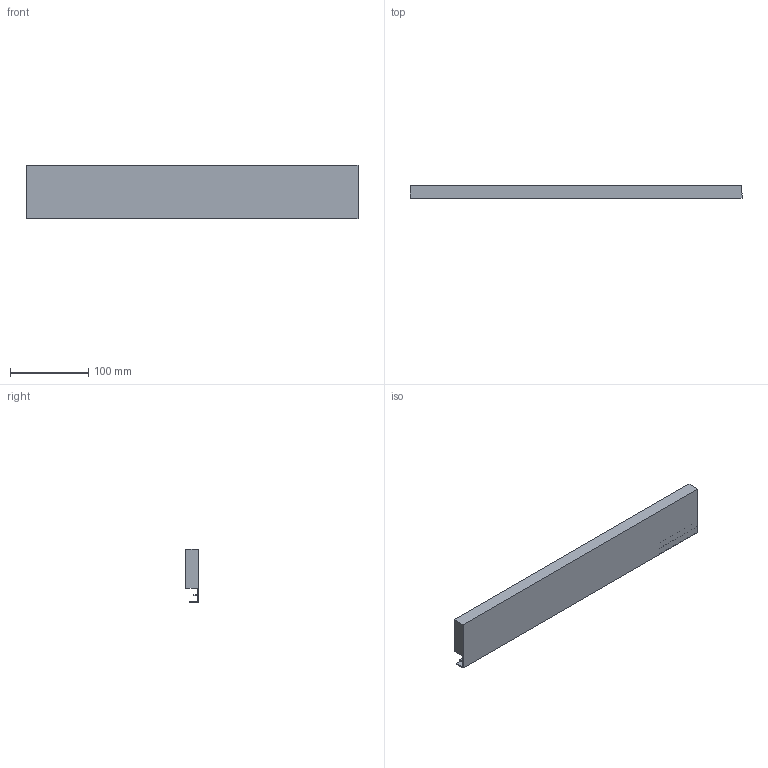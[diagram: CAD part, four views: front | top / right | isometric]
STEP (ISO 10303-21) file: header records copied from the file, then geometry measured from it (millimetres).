
FILE_DESCRIPTION (( 'STEP AP214' ), '1' );
FILE_NAME ('Innenschub-Blendenprofil_KAB550_S18.step', '2010-09-23T12:26:59', ( 'grass' ), ( '' ), 'SwSTEP 2.0', 'SolidWorks 2010', '' );
FILE_SCHEMA (( 'AUTOMOTIVE_DESIGN' ));
Length unit declared in the file: millimetre
Products named in the file (1): Innenschub-Blendenprofil_KAB550_S18
Bounding box: 423 x 15.9 x 67.6 mm (x, y, z)
Volume: 350716.8 mm3; surface area: 84685.6 mm2
Topology: 1 solids, 1 shells, 17 faces, 42 edges, 28 vertices
Faces by surface type: plane 15, cylinder 2
Entity records: 534 total; most frequent: CARTESIAN_POINT 88, ORIENTED_EDGE 84, DIRECTION 82, EDGE_CURVE 42, VECTOR 38, LINE 38, VERTEX_POINT 28, AXIS2_PLACEMENT_3D 22
